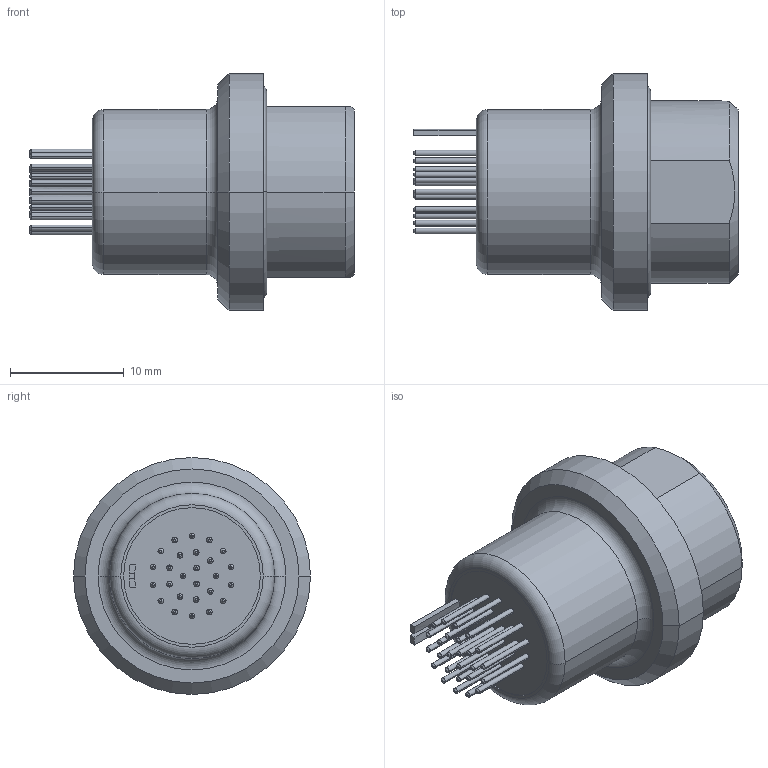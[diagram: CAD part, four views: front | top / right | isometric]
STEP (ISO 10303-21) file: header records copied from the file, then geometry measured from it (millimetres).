
FILE_DESCRIPTION((''),'2;1');
FILE_NAME('G82Y_R-P26UC00-000L-A_WITHOUT_H','2020-10-23T12:12:39',('EUnterhaslberger'),(''),'CREO PARAMETRIC BY PTC INC, 2018300','CREO PARAMETRIC BY PTC INC, 2018300','');
FILE_SCHEMA(('AP242_MANAGED_MODEL_BASED_3D_ENGINEERING_MIM_LF { 1 0 10303 442 1 1 4 }'));
Length unit declared in the file: millimetre
Products named in the file (1): G82Y_R-P26UC00-000L-A_WITHOUT_H
Bounding box: 28.5 x 20.8 x 20.8 mm (x, y, z)
Volume: 3776.2 mm3; surface area: 3631.3 mm2
Topology: 2 solids, 3 shells, 367 faces, 976 edges, 675 vertices
Faces by surface type: cylinder 161, plane 108, cone 67, torus 30, sphere 1
Entity records: 14512 total; most frequent: DIRECTION 2276, CARTESIAN_POINT 2231, ORIENTED_EDGE 1952, EDGE_CURVE 976, AXIS2_PLACEMENT_3D 969, VERTEX_POINT 675, CIRCLE 602, EDGE_LOOP 433
